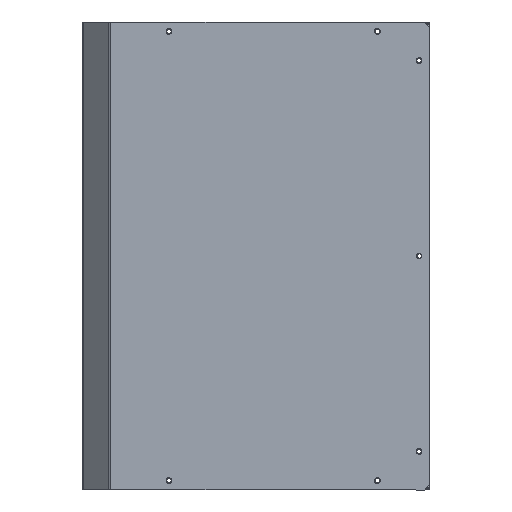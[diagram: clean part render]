
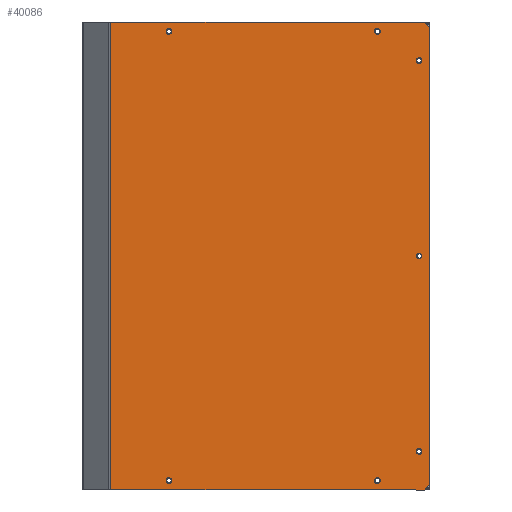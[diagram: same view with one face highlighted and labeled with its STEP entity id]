
A CAD part, front view. The second image highlights one B-rep face of the part: STEP entity #40086.
In plain terms, the highlighted planar face has unit normal (0, -1, 0) as drawn and (0, 0, 1) by its records, which use the part's own axes.
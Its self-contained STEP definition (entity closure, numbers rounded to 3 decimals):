
#38536=CARTESIAN_POINT(' ',(25.249,449.,178.));
#38537=VERTEX_POINT(' ',#38536);
#38551=CARTESIAN_POINT(' ',(25.249,449.,178.));
#38556=DIRECTION(' ',(1.,0.,0.));
#38561=VECTOR(' ',#38556,1.);
#38566=LINE('',#38551,#38561);
#38571=CARTESIAN_POINT(' ',(326.,449.,178.));
#38572=VERTEX_POINT(' ',#38571);
#38576=EDGE_CURVE(' ',#38537,#38572,#38566,.T.);
#38901=CARTESIAN_POINT(' ',(326.,0.,178.));
#38902=VERTEX_POINT(' ',#38901);
#38916=CARTESIAN_POINT(' ',(25.249,0.,178.));
#38921=DIRECTION(' ',(1.,0.,0.));
#38926=VECTOR(' ',#38921,1.);
#38931=LINE('',#38916,#38926);
#38936=CARTESIAN_POINT(' ',(25.249,0.,178.));
#38937=VERTEX_POINT(' ',#38936);
#38941=EDGE_CURVE(' ',#38937,#38902,#38931,.T.);
#39251=CARTESIAN_POINT(' ',(25.249,449.,178.));
#39256=DIRECTION(' ',(0.,-1.,0.));
#39261=VECTOR(' ',#39256,1.);
#39266=LINE('',#39251,#39261);
#39271=EDGE_CURVE(' ',#38537,#38937,#39266,.T.);
#39306=DIRECTION(' ',(-0.,-0.,1.));
#39311=CARTESIAN_POINT(' ',(331.,0.,178.));
#39316=DIRECTION(' ',(0.,1.,0.));
#39321=AXIS2_PLACEMENT_3D(' ',#39311,#39306,#39316);
#39326=PLANE('NONE',#39321);
#39331=CARTESIAN_POINT(' ',(331.,444.,178.));
#39336=DIRECTION(' ',(0.,-1.,0.));
#39341=VECTOR(' ',#39336,1.);
#39346=LINE('',#39331,#39341);
#39351=CARTESIAN_POINT(' ',(331.,444.,178.));
#39352=VERTEX_POINT(' ',#39351);
#39356=CARTESIAN_POINT(' ',(331.,5.,178.));
#39357=VERTEX_POINT(' ',#39356);
#39361=EDGE_CURVE(' ',#39352,#39357,#39346,.T.);
#39366=ORIENTED_EDGE(' ',*,*,#39361,.F.);
#39371=CARTESIAN_POINT(' ',(331.,444.,178.));
#39376=DIRECTION(' ',(-0.707,0.707,0.));
#39381=VECTOR(' ',#39376,1.);
#39386=LINE('',#39371,#39381);
#39391=EDGE_CURVE(' ',#39352,#38572,#39386,.T.);
#39396=ORIENTED_EDGE(' ',*,*,#39391,.T.);
#39401=ORIENTED_EDGE(' ',*,*,#38576,.F.);
#39406=ORIENTED_EDGE(' ',*,*,#39271,.T.);
#39411=ORIENTED_EDGE(' ',*,*,#38941,.T.);
#39416=CARTESIAN_POINT(' ',(326.,0.,178.));
#39421=DIRECTION(' ',(0.707,0.707,0.));
#39426=VECTOR(' ',#39421,1.);
#39431=LINE('',#39416,#39426);
#39436=EDGE_CURVE(' ',#38902,#39357,#39431,.T.);
#39441=ORIENTED_EDGE(' ',*,*,#39436,.T.);
#39446=EDGE_LOOP(' ',(#39366,#39396,#39401,#39406,#39411,#39441));
#39451=FACE_OUTER_BOUND(' ',#39446,.T.);
#39456=CARTESIAN_POINT(' ',(321.,37.,178.));
#39461=DIRECTION(' ',(0.,0.,1.));
#39466=DIRECTION(' ',(1.,0.,0.));
#39471=AXIS2_PLACEMENT_3D(' ',#39456,#39461,#39466);
#39476=CIRCLE('',#39471,2.75);
#39481=CARTESIAN_POINT(' ',(323.75,37.,178.));
#39482=VERTEX_POINT(' ',#39481);
#39486=CARTESIAN_POINT(' ',(318.25,37.,178.));
#39487=VERTEX_POINT(' ',#39486);
#39491=EDGE_CURVE(' ',#39482,#39487,#39476,.T.);
#39496=ORIENTED_EDGE(' ',*,*,#39491,.F.);
#39501=CARTESIAN_POINT(' ',(321.,37.,178.));
#39506=DIRECTION(' ',(0.,-0.,1.));
#39511=DIRECTION(' ',(-1.,0.,0.));
#39516=AXIS2_PLACEMENT_3D(' ',#39501,#39506,#39511);
#39521=CIRCLE('',#39516,2.75);
#39526=EDGE_CURVE(' ',#39487,#39482,#39521,.T.);
#39531=ORIENTED_EDGE(' ',*,*,#39526,.F.);
#39536=EDGE_LOOP(' ',(#39496,#39531));
#39541=FACE_BOUND(' ',#39536,.T.);
#39546=CARTESIAN_POINT(' ',(81.,9.,178.));
#39551=DIRECTION(' ',(0.,0.,1.));
#39556=DIRECTION(' ',(1.,0.,0.));
#39561=AXIS2_PLACEMENT_3D(' ',#39546,#39551,#39556);
#39566=CIRCLE('',#39561,2.75);
#39571=CARTESIAN_POINT(' ',(83.75,9.,178.));
#39572=VERTEX_POINT(' ',#39571);
#39576=CARTESIAN_POINT(' ',(78.25,9.,178.));
#39577=VERTEX_POINT(' ',#39576);
#39581=EDGE_CURVE(' ',#39572,#39577,#39566,.T.);
#39586=ORIENTED_EDGE(' ',*,*,#39581,.F.);
#39591=CARTESIAN_POINT(' ',(81.,9.,178.));
#39596=DIRECTION(' ',(0.,-0.,1.));
#39601=DIRECTION(' ',(-1.,0.,0.));
#39606=AXIS2_PLACEMENT_3D(' ',#39591,#39596,#39601);
#39611=CIRCLE('',#39606,2.75);
#39616=EDGE_CURVE(' ',#39577,#39572,#39611,.T.);
#39621=ORIENTED_EDGE(' ',*,*,#39616,.F.);
#39626=EDGE_LOOP(' ',(#39586,#39621));
#39631=FACE_BOUND(' ',#39626,.T.);
#39636=CARTESIAN_POINT(' ',(281.,9.,178.));
#39641=DIRECTION(' ',(0.,0.,1.));
#39646=DIRECTION(' ',(1.,0.,0.));
#39651=AXIS2_PLACEMENT_3D(' ',#39636,#39641,#39646);
#39656=CIRCLE('',#39651,2.75);
#39661=CARTESIAN_POINT(' ',(283.75,9.,178.));
#39662=VERTEX_POINT(' ',#39661);
#39666=CARTESIAN_POINT(' ',(278.25,9.,178.));
#39667=VERTEX_POINT(' ',#39666);
#39671=EDGE_CURVE(' ',#39662,#39667,#39656,.T.);
#39676=ORIENTED_EDGE(' ',*,*,#39671,.F.);
#39681=CARTESIAN_POINT(' ',(281.,9.,178.));
#39686=DIRECTION(' ',(0.,-0.,1.));
#39691=DIRECTION(' ',(-1.,0.,0.));
#39696=AXIS2_PLACEMENT_3D(' ',#39681,#39686,#39691);
#39701=CIRCLE('',#39696,2.75);
#39706=EDGE_CURVE(' ',#39667,#39662,#39701,.T.);
#39711=ORIENTED_EDGE(' ',*,*,#39706,.F.);
#39716=EDGE_LOOP(' ',(#39676,#39711));
#39721=FACE_BOUND(' ',#39716,.T.);
#39726=CARTESIAN_POINT(' ',(321.,224.5,178.));
#39731=DIRECTION(' ',(0.,0.,1.));
#39736=DIRECTION(' ',(1.,0.,0.));
#39741=AXIS2_PLACEMENT_3D(' ',#39726,#39731,#39736);
#39746=CIRCLE('',#39741,2.75);
#39751=CARTESIAN_POINT(' ',(323.75,224.5,178.));
#39752=VERTEX_POINT(' ',#39751);
#39756=CARTESIAN_POINT(' ',(318.25,224.5,178.));
#39757=VERTEX_POINT(' ',#39756);
#39761=EDGE_CURVE(' ',#39752,#39757,#39746,.T.);
#39766=ORIENTED_EDGE(' ',*,*,#39761,.F.);
#39771=CARTESIAN_POINT(' ',(321.,224.5,178.));
#39776=DIRECTION(' ',(0.,-0.,1.));
#39781=DIRECTION(' ',(-1.,0.,0.));
#39786=AXIS2_PLACEMENT_3D(' ',#39771,#39776,#39781);
#39791=CIRCLE('',#39786,2.75);
#39796=EDGE_CURVE(' ',#39757,#39752,#39791,.T.);
#39801=ORIENTED_EDGE(' ',*,*,#39796,.F.);
#39806=EDGE_LOOP(' ',(#39766,#39801));
#39811=FACE_BOUND(' ',#39806,.T.);
#39816=CARTESIAN_POINT(' ',(321.,412.,178.));
#39821=DIRECTION(' ',(0.,0.,1.));
#39826=DIRECTION(' ',(1.,0.,0.));
#39831=AXIS2_PLACEMENT_3D(' ',#39816,#39821,#39826);
#39836=CIRCLE('',#39831,2.75);
#39841=CARTESIAN_POINT(' ',(323.75,412.,178.));
#39842=VERTEX_POINT(' ',#39841);
#39846=CARTESIAN_POINT(' ',(318.25,412.,178.));
#39847=VERTEX_POINT(' ',#39846);
#39851=EDGE_CURVE(' ',#39842,#39847,#39836,.T.);
#39856=ORIENTED_EDGE(' ',*,*,#39851,.F.);
#39861=CARTESIAN_POINT(' ',(321.,412.,178.));
#39866=DIRECTION(' ',(0.,-0.,1.));
#39871=DIRECTION(' ',(-1.,0.,0.));
#39876=AXIS2_PLACEMENT_3D(' ',#39861,#39866,#39871);
#39881=CIRCLE('',#39876,2.75);
#39886=EDGE_CURVE(' ',#39847,#39842,#39881,.T.);
#39891=ORIENTED_EDGE(' ',*,*,#39886,.F.);
#39896=EDGE_LOOP(' ',(#39856,#39891));
#39901=FACE_BOUND(' ',#39896,.T.);
#39906=CARTESIAN_POINT(' ',(281.,440.,178.));
#39911=DIRECTION(' ',(0.,0.,1.));
#39916=DIRECTION(' ',(1.,0.,0.));
#39921=AXIS2_PLACEMENT_3D(' ',#39906,#39911,#39916);
#39926=CIRCLE('',#39921,2.75);
#39931=CARTESIAN_POINT(' ',(283.75,440.,178.));
#39932=VERTEX_POINT(' ',#39931);
#39936=CARTESIAN_POINT(' ',(278.25,440.,178.));
#39937=VERTEX_POINT(' ',#39936);
#39941=EDGE_CURVE(' ',#39932,#39937,#39926,.T.);
#39946=ORIENTED_EDGE(' ',*,*,#39941,.F.);
#39951=CARTESIAN_POINT(' ',(281.,440.,178.));
#39956=DIRECTION(' ',(0.,-0.,1.));
#39961=DIRECTION(' ',(-1.,0.,0.));
#39966=AXIS2_PLACEMENT_3D(' ',#39951,#39956,#39961);
#39971=CIRCLE('',#39966,2.75);
#39976=EDGE_CURVE(' ',#39937,#39932,#39971,.T.);
#39981=ORIENTED_EDGE(' ',*,*,#39976,.F.);
#39986=EDGE_LOOP(' ',(#39946,#39981));
#39991=FACE_BOUND(' ',#39986,.T.);
#39996=CARTESIAN_POINT(' ',(81.,440.,178.));
#40001=DIRECTION(' ',(0.,0.,1.));
#40006=DIRECTION(' ',(1.,0.,0.));
#40011=AXIS2_PLACEMENT_3D(' ',#39996,#40001,#40006);
#40016=CIRCLE('',#40011,2.75);
#40021=CARTESIAN_POINT(' ',(83.75,440.,178.));
#40022=VERTEX_POINT(' ',#40021);
#40026=CARTESIAN_POINT(' ',(78.25,440.,178.));
#40027=VERTEX_POINT(' ',#40026);
#40031=EDGE_CURVE(' ',#40022,#40027,#40016,.T.);
#40036=ORIENTED_EDGE(' ',*,*,#40031,.F.);
#40041=CARTESIAN_POINT(' ',(81.,440.,178.));
#40046=DIRECTION(' ',(0.,-0.,1.));
#40051=DIRECTION(' ',(-1.,0.,0.));
#40056=AXIS2_PLACEMENT_3D(' ',#40041,#40046,#40051);
#40061=CIRCLE('',#40056,2.75);
#40066=EDGE_CURVE(' ',#40027,#40022,#40061,.T.);
#40071=ORIENTED_EDGE(' ',*,*,#40066,.F.);
#40076=EDGE_LOOP(' ',(#40036,#40071));
#40081=FACE_BOUND(' ',#40076,.T.);
#40086=ADVANCED_FACE('NONE',(#39451,#39541,#39631,#39721,#39811,#39901,#39991,#40081),#39326,.T.);
